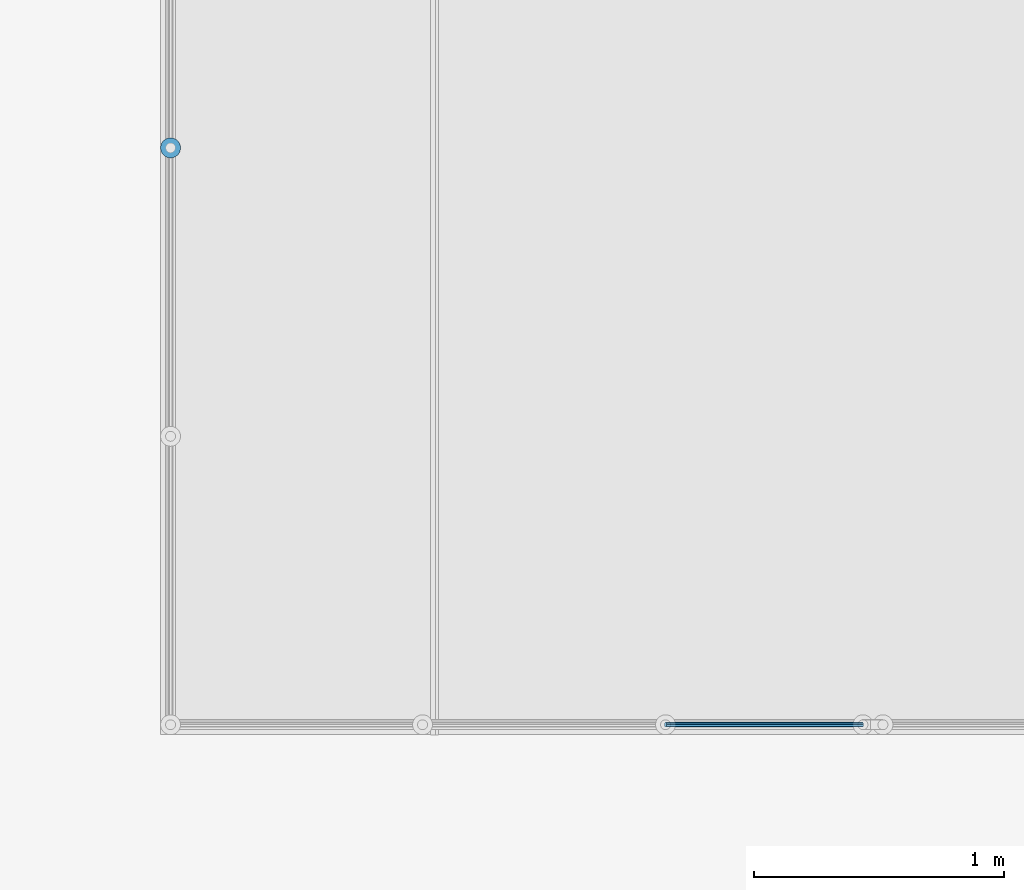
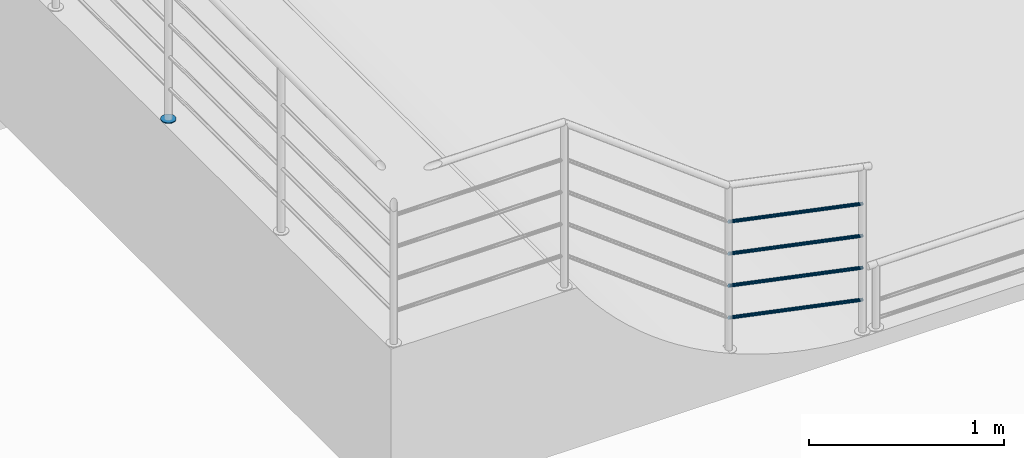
# One storey, part 93 of 237: 6 building element parts, 1 element without a shape of its own.
"""IFC2X3 building model written with IfcOpenShell, lengths in millimetres."""

from ifc_helpers import new_model, entity, si_unit, converted_unit, derived_unit, money_unit, direction, frame, origin_with_axes, place, context, subcontext, project, spatial, faceted_brep, material, type_object, element, aggregate, save


model = new_model("IFC2X3")

# Units and contexts
model_context = context("Model", 3, precision=0.01, world=origin_with_axes(), true_north=direction((0.0, 1.0)))
body_context = subcontext(model_context, "Body", "Model", "MODEL_VIEW")
ifc_project = project(units=[si_unit("LENGTHUNIT", "METRE", prefix="MILLI"), si_unit("AREAUNIT", "SQUARE_METRE"), si_unit("VOLUMEUNIT", "CUBIC_METRE"), converted_unit("PLANEANGLEUNIT", "DEGREE", entity("IfcPlaneAngleMeasure", 0.0174532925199), si_unit("PLANEANGLEUNIT", "RADIAN"), dimensions=[0, 0, 0, 0, 0, 0, 0]), money_unit("USD"), converted_unit("TIMEUNIT", "Year", entity("IfcTimeMeasure", 31556926.0), si_unit("TIMEUNIT", "SECOND"), dimensions=[0, 0, 1, 0, 0, 0, 0]), si_unit("MASSUNIT", "GRAM", prefix="KILO"), si_unit("THERMODYNAMICTEMPERATUREUNIT", "DEGREE_CELSIUS"), si_unit("LUMINOUSINTENSITYUNIT", "LUMEN"), si_unit("ENERGYUNIT", "JOULE", prefix="MEGA"), derived_unit("THERMALCONDUCTANCEUNIT", [(si_unit("POWERUNIT", "WATT"), 1), (si_unit("LENGTHUNIT", "METRE"), -1), (si_unit("THERMODYNAMICTEMPERATUREUNIT", "KELVIN"), -1)]), derived_unit("SPECIFICHEATCAPACITYUNIT", [(si_unit("ENERGYUNIT", "JOULE"), 1), (si_unit("MASSUNIT", "GRAM", prefix="KILO"), -1), (si_unit("THERMODYNAMICTEMPERATUREUNIT", "KELVIN"), -1)]), derived_unit("MASSDENSITYUNIT", [(si_unit("MASSUNIT", "GRAM", prefix="KILO"), 1), (si_unit("VOLUMEUNIT", "CUBIC_METRE"), -1)])], contexts=[model_context])

# Site, building, storey
site_placement = place(None, origin_with_axes())
site = spatial("IfcSite", under=ifc_project, at=site_placement, Name="Local", CompositionType="ELEMENT")
building_placement = place(site_placement, origin_with_axes())
building = spatial("IfcBuilding", under=site, at=building_placement, Name="Construção", CompositionType="ELEMENT")
storey_placement = place(building_placement, origin_with_axes())
storey = spatial("IfcBuildingStorey", under=building, at=storey_placement, Name="Pavimento Térreo", CompositionType="ELEMENT", Elevation=0.0)

# Railing, building element parts
railing_type = type_object("IfcRailingType", Name="Tipo de Guarda-Corpo", PredefinedType="NOTDEFINED")
railing_placement = place(storey_placement, frame((53912.4440926, 33356.4497128, -1263.04952679), z_axis=(0.0, 0.0, 1.0), x_axis=(1.0, 0.0, 0.0)))
railing = element("IfcRailing", 1, at=railing_placement, inside=storey, type_object=railing_type, Name="Guarda-Corpo - 001", PredefinedType="NOTDEFINED")
ifc_material_1 = material(Name="Alumínio")
building_element_part_1_placement = place(railing_placement, origin_with_axes())
building_element_part_1 = element("IfcBuildingElementPart", 2, at=building_element_part_1_placement, material=ifc_material_1, Name="Alumínio", context=body_context, shape_type="Brep", body=[
    faceted_brep([(-2810.0, -3003.52512082, 905.941330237), (-2803.05407289, -3002.91743094, 905.941330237), (-2803.05407289, -3002.91743094, 910.941330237), (-2810.0, -3003.52512082, 910.941330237), (-2816.94592711, -3002.91743094, 905.941330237), (-2823.68080573, -3001.11282565, 905.941330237), (-2830.0, -2998.16613697, 905.941330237), (-2835.71150439, -2994.16689854, 905.941330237), (-2840.64177772, -2989.2366252, 905.941330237), (-2844.64101615, -2983.52512082, 905.941330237), (-2847.58770483, -2977.20592655, 905.941330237), (-2849.39231012, -2970.47104792, 905.941330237), (-2850.0, -2963.52512082, 905.941330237), (-2849.39231012, -2956.57919371, 905.941330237), (-2847.58770483, -2949.84431508, 905.941330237), (-2844.64101615, -2943.52512082, 905.941330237), (-2840.64177772, -2937.81361643, 905.941330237), (-2835.71150439, -2932.88334309, 905.941330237), (-2830.0, -2928.88410467, 905.941330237), (-2823.68080573, -2925.93741599, 905.941330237), (-2816.94592711, -2924.1328107, 905.941330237), (-2810.0, -2923.52512082, 905.941330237), (-2803.05407289, -2924.1328107, 905.941330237), (-2796.31919427, -2925.93741599, 905.941330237), (-2790.0, -2928.88410467, 905.941330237), (-2784.28849561, -2932.88334309, 905.941330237), (-2779.35822228, -2937.81361643, 905.941330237), (-2775.35898385, -2943.52512082, 905.941330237), (-2772.41229517, -2949.84431508, 905.941330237), (-2770.60768988, -2956.57919371, 905.941330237), (-2770.0, -2963.52512082, 905.941330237), (-2770.60768988, -2970.47104792, 905.941330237), (-2772.41229517, -2977.20592655, 905.941330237), (-2775.35898385, -2983.52512082, 905.941330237), (-2779.35822228, -2989.2366252, 905.941330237), (-2784.28849561, -2994.16689854, 905.941330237), (-2790.0, -2998.16613697, 905.941330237), (-2796.31919427, -3001.11282565, 905.941330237), (-2796.31919427, -3001.11282565, 910.941330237), (-2790.0, -2998.16613697, 910.941330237), (-2784.28849561, -2994.16689854, 910.941330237), (-2779.35822228, -2989.2366252, 910.941330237), (-2775.35898385, -2983.52512082, 910.941330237), (-2772.41229517, -2977.20592655, 910.941330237), (-2770.60768988, -2970.47104792, 910.941330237), (-2770.0, -2963.52512082, 910.941330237), (-2770.60768988, -2956.57919371, 910.941330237), (-2772.41229517, -2949.84431508, 910.941330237), (-2775.35898385, -2943.52512082, 910.941330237), (-2779.35822228, -2937.81361643, 910.941330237), (-2784.28849561, -2932.88334309, 910.941330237), (-2790.0, -2928.88410467, 910.941330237), (-2796.31919427, -2925.93741599, 910.941330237), (-2803.05407289, -2924.1328107, 910.941330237), (-2810.0, -2923.52512082, 910.941330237), (-2816.94592711, -2924.1328107, 910.941330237), (-2823.68080573, -2925.93741599, 910.941330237), (-2830.0, -2928.88410467, 910.941330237), (-2835.71150439, -2932.88334309, 910.941330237), (-2840.64177772, -2937.81361643, 910.941330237), (-2844.64101615, -2943.52512082, 910.941330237), (-2847.58770483, -2949.84431508, 910.941330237), (-2849.39231012, -2956.57919371, 910.941330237), (-2850.0, -2963.52512082, 910.941330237), (-2849.39231012, -2970.47104792, 910.941330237), (-2847.58770483, -2977.20592655, 910.941330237), (-2844.64101615, -2983.52512082, 910.941330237), (-2840.64177772, -2989.2366252, 910.941330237), (-2835.71150439, -2994.16689854, 910.941330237), (-2830.0, -2998.16613697, 910.941330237), (-2823.68080573, -3001.11282565, 910.941330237), (-2816.94592711, -3002.91743094, 910.941330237)], [[[0, 1, 2, 3]], [[0, 4, 5, 6, 7, 8, 9, 10, 11, 12, 13, 14, 15, 16, 17, 18, 19, 20, 21, 22, 23, 24, 25, 26, 27, 28, 29, 30, 31, 32, 33, 34, 35, 36, 37, 1]], [[1, 37, 38, 2]], [[3, 2, 38, 39, 40, 41, 42, 43, 44, 45, 46, 47, 48, 49, 50, 51, 52, 53, 54, 55, 56, 57, 58, 59, 60, 61, 62, 63, 64, 65, 66, 67, 68, 69, 70, 71]], [[4, 0, 3, 71]], [[5, 4, 71, 70]], [[6, 5, 70, 69]], [[7, 6, 69, 68]], [[8, 7, 68, 67]], [[9, 8, 67, 66]], [[10, 9, 66, 65]], [[11, 10, 65, 64]], [[12, 11, 64, 63]], [[13, 12, 63, 62]], [[14, 13, 62, 61]], [[15, 14, 61, 60]], [[16, 15, 60, 59]], [[17, 16, 59, 58]], [[18, 17, 58, 57]], [[19, 18, 57, 56]], [[20, 19, 56, 55]], [[21, 20, 55, 54]], [[22, 21, 54, 53]], [[23, 22, 53, 52]], [[24, 23, 52, 51]], [[25, 24, 51, 50]], [[26, 25, 50, 49]], [[27, 26, 49, 48]], [[28, 27, 48, 47]], [[29, 28, 47, 46]], [[30, 29, 46, 45]], [[31, 30, 45, 44]], [[32, 31, 44, 43]], [[33, 32, 43, 42]], [[34, 33, 42, 41]], [[35, 34, 41, 40]], [[36, 35, 40, 39]], [[37, 36, 39, 38]]]),
])
ifc_material_2 = material(Name="Aço - Inoxidável")
building_element_part_2_placement = place(railing_placement, origin_with_axes())
building_element_part_2 = element("IfcBuildingElementPart", 3, at=building_element_part_2_placement, material=ifc_material_2, Name="Aço - Inoxidável", context=body_context, shape_type="Brep", body=[
    faceted_brep([(-829.671437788, -5261.51345888, 372.183005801), (-828.936630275, -5261.66538135, 373.803992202), (-39.6471437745, -5261.66538135, 210.001515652), (-40.0, -5261.51345888, 208.301262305), (-830.406245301, -5261.66538135, 370.562019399), (-831.118726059, -5262.11653267, 368.990285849), (-831.787231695, -5262.85320484, 367.515561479), (-832.391450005, -5263.85301445, 366.182655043), (-832.913022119, -5265.08558278, 365.032066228), (-833.336100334, -5266.51345888, 364.098755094), (-833.647829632, -5268.09325744, 363.411079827), (-833.838738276, -5269.7769771, 362.989935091), (-833.903025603, -5271.51345888, 362.848117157), (-833.838738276, -5273.24994065, 362.989935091), (-833.647829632, -5274.93366031, 363.411079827), (-833.336100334, -5276.51345888, 364.098755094), (-832.913022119, -5277.94133497, 365.032066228), (-832.391450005, -5279.17390331, 366.182655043), (-831.787231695, -5280.17371292, 367.515561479), (-831.118726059, -5280.91038509, 368.990285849), (-830.406245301, -5281.36153641, 370.562019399), (-829.671437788, -5281.51345888, 372.183005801), (-828.936630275, -5281.36153641, 373.803992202), (-828.224149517, -5280.91038509, 375.375725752), (-827.55564388, -5280.17371292, 376.850450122), (-826.951425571, -5279.17390331, 378.183356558), (-826.429853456, -5277.94133497, 379.333945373), (-826.006775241, -5276.51345888, 380.267256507), (-825.695045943, -5274.93366031, 380.954931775), (-825.5041373, -5273.24994065, 381.37607651), (-825.439849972, -5271.51345888, 381.517894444), (-825.5041373, -5269.7769771, 381.37607651), (-825.695045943, -5268.09325744, 380.954931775), (-826.006775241, -5266.51345888, 380.267256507), (-826.429853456, -5265.08558278, 379.333945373), (-826.951425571, -5263.85301445, 378.183356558), (-827.55564388, -5262.85320484, 376.850450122), (-828.224149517, -5262.11653267, 375.375725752), (-39.3050089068, -5262.11653267, 211.650107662), (-38.9839909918, -5262.85320484, 213.1969467), (-38.6938439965, -5263.85301445, 214.595032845), (-38.4433838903, -5265.08558278, 215.801885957), (-38.2402207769, -5266.51345888, 216.780836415), (-38.0905276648, -5268.09325744, 217.502139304), (-37.9988529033, -5269.7769771, 217.943878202), (-37.9679819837, -5271.51345888, 218.092631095), (-37.9988529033, -5273.24994065, 217.943878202), (-38.0905276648, -5274.93366031, 217.502139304), (-38.2402207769, -5276.51345888, 216.780836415), (-38.4433838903, -5277.94133497, 215.801885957), (-38.6938439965, -5279.17390331, 214.595032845), (-38.9839909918, -5280.17371292, 213.1969467), (-39.3050089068, -5280.91038509, 211.650107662), (-39.6471437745, -5281.36153641, 210.001515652), (-40.0, -5281.51345888, 208.301262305), (-40.3528562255, -5281.36153641, 206.601008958), (-40.6949910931, -5280.91038509, 204.952416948), (-41.0160090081, -5280.17371292, 203.40557791), (-41.3061560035, -5279.17390331, 202.007491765), (-41.5566161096, -5277.94133497, 200.800638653), (-41.759779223, -5276.51345888, 199.821688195), (-41.9094723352, -5274.93366031, 199.100385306), (-42.0011470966, -5273.24994065, 198.658646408), (-42.0320180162, -5271.51345888, 198.509893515), (-42.0011470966, -5269.7769771, 198.658646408), (-41.9094723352, -5268.09325744, 199.100385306), (-41.759779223, -5266.51345888, 199.821688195), (-41.5566161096, -5265.08558278, 200.800638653), (-41.3061560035, -5263.85301445, 202.007491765), (-41.0160090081, -5262.85320484, 203.40557791), (-40.6949910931, -5262.11653267, 204.952416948), (-40.3528562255, -5261.66538135, 206.601008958)], [[[0, 1, 2, 3]], [[0, 4, 5, 6, 7, 8, 9, 10, 11, 12, 13, 14, 15, 16, 17, 18, 19, 20, 21, 22, 23, 24, 25, 26, 27, 28, 29, 30, 31, 32, 33, 34, 35, 36, 37, 1]], [[1, 37, 38, 2]], [[3, 2, 38, 39, 40, 41, 42, 43, 44, 45, 46, 47, 48, 49, 50, 51, 52, 53, 54, 55, 56, 57, 58, 59, 60, 61, 62, 63, 64, 65, 66, 67, 68, 69, 70, 71]], [[4, 0, 3, 71]], [[5, 4, 71, 70]], [[6, 5, 70, 69]], [[7, 6, 69, 68]], [[8, 7, 68, 67]], [[9, 8, 67, 66]], [[10, 9, 66, 65]], [[11, 10, 65, 64]], [[12, 11, 64, 63]], [[13, 12, 63, 62]], [[14, 13, 62, 61]], [[15, 14, 61, 60]], [[16, 15, 60, 59]], [[17, 16, 59, 58]], [[18, 17, 58, 57]], [[19, 18, 57, 56]], [[20, 19, 56, 55]], [[21, 20, 55, 54]], [[22, 21, 54, 53]], [[23, 22, 53, 52]], [[24, 23, 52, 51]], [[25, 24, 51, 50]], [[26, 25, 50, 49]], [[27, 26, 49, 48]], [[28, 27, 48, 47]], [[29, 28, 47, 46]], [[30, 29, 46, 45]], [[31, 30, 45, 44]], [[32, 31, 44, 43]], [[33, 32, 43, 42]], [[34, 33, 42, 41]], [[35, 34, 41, 40]], [[36, 35, 40, 39]], [[37, 36, 39, 38]]]),
])
building_element_part_3_placement = place(railing_placement, origin_with_axes())
building_element_part_3 = element("IfcBuildingElementPart", 4, at=building_element_part_3_placement, material=ifc_material_2, Name="Aço - Inoxidável", context=body_context, shape_type="Brep", body=[
    faceted_brep([(-829.671437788, -5261.51345888, 572.183005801), (-828.936630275, -5261.66538135, 573.803992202), (-39.6471437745, -5261.66538135, 410.001515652), (-40.0, -5261.51345888, 408.301262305), (-830.406245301, -5261.66538135, 570.562019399), (-831.118726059, -5262.11653267, 568.990285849), (-831.787231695, -5262.85320484, 567.515561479), (-832.391450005, -5263.85301445, 566.182655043), (-832.913022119, -5265.08558278, 565.032066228), (-833.336100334, -5266.51345888, 564.098755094), (-833.647829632, -5268.09325744, 563.411079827), (-833.838738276, -5269.7769771, 562.989935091), (-833.903025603, -5271.51345888, 562.848117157), (-833.838738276, -5273.24994065, 562.989935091), (-833.647829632, -5274.93366031, 563.411079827), (-833.336100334, -5276.51345888, 564.098755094), (-832.913022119, -5277.94133497, 565.032066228), (-832.391450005, -5279.17390331, 566.182655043), (-831.787231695, -5280.17371292, 567.515561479), (-831.118726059, -5280.91038509, 568.990285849), (-830.406245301, -5281.36153641, 570.562019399), (-829.671437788, -5281.51345888, 572.183005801), (-828.936630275, -5281.36153641, 573.803992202), (-828.224149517, -5280.91038509, 575.375725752), (-827.55564388, -5280.17371292, 576.850450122), (-826.951425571, -5279.17390331, 578.183356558), (-826.429853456, -5277.94133497, 579.333945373), (-826.006775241, -5276.51345888, 580.267256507), (-825.695045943, -5274.93366031, 580.954931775), (-825.5041373, -5273.24994065, 581.37607651), (-825.439849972, -5271.51345888, 581.517894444), (-825.5041373, -5269.7769771, 581.37607651), (-825.695045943, -5268.09325744, 580.954931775), (-826.006775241, -5266.51345888, 580.267256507), (-826.429853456, -5265.08558278, 579.333945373), (-826.951425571, -5263.85301445, 578.183356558), (-827.55564388, -5262.85320484, 576.850450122), (-828.224149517, -5262.11653267, 575.375725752), (-39.3050089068, -5262.11653267, 411.650107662), (-38.9839909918, -5262.85320484, 413.1969467), (-38.6938439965, -5263.85301445, 414.595032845), (-38.4433838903, -5265.08558278, 415.801885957), (-38.2402207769, -5266.51345888, 416.780836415), (-38.0905276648, -5268.09325744, 417.502139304), (-37.9988529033, -5269.7769771, 417.943878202), (-37.9679819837, -5271.51345888, 418.092631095), (-37.9988529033, -5273.24994065, 417.943878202), (-38.0905276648, -5274.93366031, 417.502139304), (-38.2402207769, -5276.51345888, 416.780836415), (-38.4433838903, -5277.94133497, 415.801885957), (-38.6938439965, -5279.17390331, 414.595032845), (-38.9839909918, -5280.17371292, 413.1969467), (-39.3050089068, -5280.91038509, 411.650107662), (-39.6471437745, -5281.36153641, 410.001515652), (-40.0, -5281.51345888, 408.301262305), (-40.3528562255, -5281.36153641, 406.601008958), (-40.6949910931, -5280.91038509, 404.952416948), (-41.0160090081, -5280.17371292, 403.40557791), (-41.3061560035, -5279.17390331, 402.007491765), (-41.5566161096, -5277.94133497, 400.800638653), (-41.759779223, -5276.51345888, 399.821688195), (-41.9094723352, -5274.93366031, 399.100385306), (-42.0011470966, -5273.24994065, 398.658646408), (-42.0320180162, -5271.51345888, 398.509893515), (-42.0011470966, -5269.7769771, 398.658646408), (-41.9094723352, -5268.09325744, 399.100385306), (-41.759779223, -5266.51345888, 399.821688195), (-41.5566161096, -5265.08558278, 400.800638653), (-41.3061560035, -5263.85301445, 402.007491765), (-41.0160090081, -5262.85320484, 403.40557791), (-40.6949910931, -5262.11653267, 404.952416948), (-40.3528562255, -5261.66538135, 406.601008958)], [[[0, 1, 2, 3]], [[0, 4, 5, 6, 7, 8, 9, 10, 11, 12, 13, 14, 15, 16, 17, 18, 19, 20, 21, 22, 23, 24, 25, 26, 27, 28, 29, 30, 31, 32, 33, 34, 35, 36, 37, 1]], [[1, 37, 38, 2]], [[3, 2, 38, 39, 40, 41, 42, 43, 44, 45, 46, 47, 48, 49, 50, 51, 52, 53, 54, 55, 56, 57, 58, 59, 60, 61, 62, 63, 64, 65, 66, 67, 68, 69, 70, 71]], [[4, 0, 3, 71]], [[5, 4, 71, 70]], [[6, 5, 70, 69]], [[7, 6, 69, 68]], [[8, 7, 68, 67]], [[9, 8, 67, 66]], [[10, 9, 66, 65]], [[11, 10, 65, 64]], [[12, 11, 64, 63]], [[13, 12, 63, 62]], [[14, 13, 62, 61]], [[15, 14, 61, 60]], [[16, 15, 60, 59]], [[17, 16, 59, 58]], [[18, 17, 58, 57]], [[19, 18, 57, 56]], [[20, 19, 56, 55]], [[21, 20, 55, 54]], [[22, 21, 54, 53]], [[23, 22, 53, 52]], [[24, 23, 52, 51]], [[25, 24, 51, 50]], [[26, 25, 50, 49]], [[27, 26, 49, 48]], [[28, 27, 48, 47]], [[29, 28, 47, 46]], [[30, 29, 46, 45]], [[31, 30, 45, 44]], [[32, 31, 44, 43]], [[33, 32, 43, 42]], [[34, 33, 42, 41]], [[35, 34, 41, 40]], [[36, 35, 40, 39]], [[37, 36, 39, 38]]]),
])
building_element_part_4_placement = place(railing_placement, origin_with_axes())
building_element_part_4 = element("IfcBuildingElementPart", 5, at=building_element_part_4_placement, material=ifc_material_2, Name="Aço - Inoxidável", context=body_context, shape_type="Brep", body=[
    faceted_brep([(-829.671437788, -5261.51345888, 572.183005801), (-828.936630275, -5261.66538135, 573.803992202), (-39.6471437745, -5261.66538135, 410.001515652), (-40.0, -5261.51345888, 408.301262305), (-830.406245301, -5261.66538135, 570.562019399), (-831.118726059, -5262.11653267, 568.990285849), (-831.787231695, -5262.85320484, 567.515561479), (-832.391450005, -5263.85301445, 566.182655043), (-832.913022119, -5265.08558278, 565.032066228), (-833.336100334, -5266.51345888, 564.098755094), (-833.647829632, -5268.09325744, 563.411079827), (-833.838738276, -5269.7769771, 562.989935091), (-833.903025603, -5271.51345888, 562.848117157), (-833.838738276, -5273.24994065, 562.989935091), (-833.647829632, -5274.93366031, 563.411079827), (-833.336100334, -5276.51345888, 564.098755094), (-832.913022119, -5277.94133497, 565.032066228), (-832.391450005, -5279.17390331, 566.182655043), (-831.787231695, -5280.17371292, 567.515561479), (-831.118726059, -5280.91038509, 568.990285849), (-830.406245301, -5281.36153641, 570.562019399), (-829.671437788, -5281.51345888, 572.183005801), (-828.936630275, -5281.36153641, 573.803992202), (-828.224149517, -5280.91038509, 575.375725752), (-827.55564388, -5280.17371292, 576.850450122), (-826.951425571, -5279.17390331, 578.183356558), (-826.429853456, -5277.94133497, 579.333945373), (-826.006775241, -5276.51345888, 580.267256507), (-825.695045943, -5274.93366031, 580.954931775), (-825.5041373, -5273.24994065, 581.37607651), (-825.439849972, -5271.51345888, 581.517894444), (-825.5041373, -5269.7769771, 581.37607651), (-825.695045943, -5268.09325744, 580.954931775), (-826.006775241, -5266.51345888, 580.267256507), (-826.429853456, -5265.08558278, 579.333945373), (-826.951425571, -5263.85301445, 578.183356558), (-827.55564388, -5262.85320484, 576.850450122), (-828.224149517, -5262.11653267, 575.375725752), (-39.3050089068, -5262.11653267, 411.650107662), (-38.9839909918, -5262.85320484, 413.1969467), (-38.6938439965, -5263.85301445, 414.595032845), (-38.4433838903, -5265.08558278, 415.801885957), (-38.2402207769, -5266.51345888, 416.780836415), (-38.0905276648, -5268.09325744, 417.502139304), (-37.9988529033, -5269.7769771, 417.943878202), (-37.9679819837, -5271.51345888, 418.092631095), (-37.9988529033, -5273.24994065, 417.943878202), (-38.0905276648, -5274.93366031, 417.502139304), (-38.2402207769, -5276.51345888, 416.780836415), (-38.4433838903, -5277.94133497, 415.801885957), (-38.6938439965, -5279.17390331, 414.595032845), (-38.9839909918, -5280.17371292, 413.1969467), (-39.3050089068, -5280.91038509, 411.650107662), (-39.6471437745, -5281.36153641, 410.001515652), (-40.0, -5281.51345888, 408.301262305), (-40.3528562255, -5281.36153641, 406.601008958), (-40.6949910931, -5280.91038509, 404.952416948), (-41.0160090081, -5280.17371292, 403.40557791), (-41.3061560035, -5279.17390331, 402.007491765), (-41.5566161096, -5277.94133497, 400.800638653), (-41.759779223, -5276.51345888, 399.821688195), (-41.9094723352, -5274.93366031, 399.100385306), (-42.0011470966, -5273.24994065, 398.658646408), (-42.0320180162, -5271.51345888, 398.509893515), (-42.0011470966, -5269.7769771, 398.658646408), (-41.9094723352, -5268.09325744, 399.100385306), (-41.759779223, -5266.51345888, 399.821688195), (-41.5566161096, -5265.08558278, 400.800638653), (-41.3061560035, -5263.85301445, 402.007491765), (-41.0160090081, -5262.85320484, 403.40557791), (-40.6949910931, -5262.11653267, 404.952416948), (-40.3528562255, -5261.66538135, 406.601008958)], [[[0, 1, 2, 3]], [[0, 4, 5, 6, 7, 8, 9, 10, 11, 12, 13, 14, 15, 16, 17, 18, 19, 20, 21, 22, 23, 24, 25, 26, 27, 28, 29, 30, 31, 32, 33, 34, 35, 36, 37, 1]], [[1, 37, 38, 2]], [[3, 2, 38, 39, 40, 41, 42, 43, 44, 45, 46, 47, 48, 49, 50, 51, 52, 53, 54, 55, 56, 57, 58, 59, 60, 61, 62, 63, 64, 65, 66, 67, 68, 69, 70, 71]], [[4, 0, 3, 71]], [[5, 4, 71, 70]], [[6, 5, 70, 69]], [[7, 6, 69, 68]], [[8, 7, 68, 67]], [[9, 8, 67, 66]], [[10, 9, 66, 65]], [[11, 10, 65, 64]], [[12, 11, 64, 63]], [[13, 12, 63, 62]], [[14, 13, 62, 61]], [[15, 14, 61, 60]], [[16, 15, 60, 59]], [[17, 16, 59, 58]], [[18, 17, 58, 57]], [[19, 18, 57, 56]], [[20, 19, 56, 55]], [[21, 20, 55, 54]], [[22, 21, 54, 53]], [[23, 22, 53, 52]], [[24, 23, 52, 51]], [[25, 24, 51, 50]], [[26, 25, 50, 49]], [[27, 26, 49, 48]], [[28, 27, 48, 47]], [[29, 28, 47, 46]], [[30, 29, 46, 45]], [[31, 30, 45, 44]], [[32, 31, 44, 43]], [[33, 32, 43, 42]], [[34, 33, 42, 41]], [[35, 34, 41, 40]], [[36, 35, 40, 39]], [[37, 36, 39, 38]]]),
])
building_element_part_5_placement = place(railing_placement, origin_with_axes())
building_element_part_5 = element("IfcBuildingElementPart", 6, at=building_element_part_5_placement, material=ifc_material_2, Name="Aço - Inoxidável", context=body_context, shape_type="Brep", body=[
    faceted_brep([(-829.671437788, -5261.51345888, 772.183005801), (-828.936630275, -5261.66538135, 773.803992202), (-39.6471437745, -5261.66538135, 610.001515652), (-40.0, -5261.51345888, 608.301262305), (-830.406245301, -5261.66538135, 770.562019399), (-831.118726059, -5262.11653267, 768.990285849), (-831.787231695, -5262.85320484, 767.515561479), (-832.391450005, -5263.85301445, 766.182655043), (-832.913022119, -5265.08558278, 765.032066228), (-833.336100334, -5266.51345888, 764.098755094), (-833.647829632, -5268.09325744, 763.411079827), (-833.838738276, -5269.7769771, 762.989935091), (-833.903025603, -5271.51345888, 762.848117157), (-833.838738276, -5273.24994065, 762.989935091), (-833.647829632, -5274.93366031, 763.411079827), (-833.336100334, -5276.51345888, 764.098755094), (-832.913022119, -5277.94133497, 765.032066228), (-832.391450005, -5279.17390331, 766.182655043), (-831.787231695, -5280.17371292, 767.515561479), (-831.118726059, -5280.91038509, 768.990285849), (-830.406245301, -5281.36153641, 770.562019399), (-829.671437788, -5281.51345888, 772.183005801), (-828.936630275, -5281.36153641, 773.803992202), (-828.224149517, -5280.91038509, 775.375725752), (-827.55564388, -5280.17371292, 776.850450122), (-826.951425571, -5279.17390331, 778.183356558), (-826.429853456, -5277.94133497, 779.333945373), (-826.006775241, -5276.51345888, 780.267256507), (-825.695045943, -5274.93366031, 780.954931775), (-825.5041373, -5273.24994065, 781.37607651), (-825.439849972, -5271.51345888, 781.517894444), (-825.5041373, -5269.7769771, 781.37607651), (-825.695045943, -5268.09325744, 780.954931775), (-826.006775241, -5266.51345888, 780.267256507), (-826.429853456, -5265.08558278, 779.333945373), (-826.951425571, -5263.85301445, 778.183356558), (-827.55564388, -5262.85320484, 776.850450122), (-828.224149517, -5262.11653267, 775.375725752), (-39.3050089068, -5262.11653267, 611.650107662), (-38.9839909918, -5262.85320484, 613.1969467), (-38.6938439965, -5263.85301445, 614.595032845), (-38.4433838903, -5265.08558278, 615.801885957), (-38.2402207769, -5266.51345888, 616.780836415), (-38.0905276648, -5268.09325744, 617.502139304), (-37.9988529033, -5269.7769771, 617.943878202), (-37.9679819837, -5271.51345888, 618.092631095), (-37.9988529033, -5273.24994065, 617.943878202), (-38.0905276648, -5274.93366031, 617.502139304), (-38.2402207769, -5276.51345888, 616.780836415), (-38.4433838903, -5277.94133497, 615.801885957), (-38.6938439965, -5279.17390331, 614.595032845), (-38.9839909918, -5280.17371292, 613.1969467), (-39.3050089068, -5280.91038509, 611.650107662), (-39.6471437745, -5281.36153641, 610.001515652), (-40.0, -5281.51345888, 608.301262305), (-40.3528562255, -5281.36153641, 606.601008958), (-40.6949910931, -5280.91038509, 604.952416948), (-41.0160090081, -5280.17371292, 603.40557791), (-41.3061560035, -5279.17390331, 602.007491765), (-41.5566161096, -5277.94133497, 600.800638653), (-41.759779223, -5276.51345888, 599.821688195), (-41.9094723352, -5274.93366031, 599.100385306), (-42.0011470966, -5273.24994065, 598.658646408), (-42.0320180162, -5271.51345888, 598.509893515), (-42.0011470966, -5269.7769771, 598.658646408), (-41.9094723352, -5268.09325744, 599.100385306), (-41.759779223, -5266.51345888, 599.821688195), (-41.5566161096, -5265.08558278, 600.800638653), (-41.3061560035, -5263.85301445, 602.007491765), (-41.0160090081, -5262.85320484, 603.40557791), (-40.6949910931, -5262.11653267, 604.952416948), (-40.3528562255, -5261.66538135, 606.601008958)], [[[0, 1, 2, 3]], [[0, 4, 5, 6, 7, 8, 9, 10, 11, 12, 13, 14, 15, 16, 17, 18, 19, 20, 21, 22, 23, 24, 25, 26, 27, 28, 29, 30, 31, 32, 33, 34, 35, 36, 37, 1]], [[1, 37, 38, 2]], [[3, 2, 38, 39, 40, 41, 42, 43, 44, 45, 46, 47, 48, 49, 50, 51, 52, 53, 54, 55, 56, 57, 58, 59, 60, 61, 62, 63, 64, 65, 66, 67, 68, 69, 70, 71]], [[4, 0, 3, 71]], [[5, 4, 71, 70]], [[6, 5, 70, 69]], [[7, 6, 69, 68]], [[8, 7, 68, 67]], [[9, 8, 67, 66]], [[10, 9, 66, 65]], [[11, 10, 65, 64]], [[12, 11, 64, 63]], [[13, 12, 63, 62]], [[14, 13, 62, 61]], [[15, 14, 61, 60]], [[16, 15, 60, 59]], [[17, 16, 59, 58]], [[18, 17, 58, 57]], [[19, 18, 57, 56]], [[20, 19, 56, 55]], [[21, 20, 55, 54]], [[22, 21, 54, 53]], [[23, 22, 53, 52]], [[24, 23, 52, 51]], [[25, 24, 51, 50]], [[26, 25, 50, 49]], [[27, 26, 49, 48]], [[28, 27, 48, 47]], [[29, 28, 47, 46]], [[30, 29, 46, 45]], [[31, 30, 45, 44]], [[32, 31, 44, 43]], [[33, 32, 43, 42]], [[34, 33, 42, 41]], [[35, 34, 41, 40]], [[36, 35, 40, 39]], [[37, 36, 39, 38]]]),
])
building_element_part_6_placement = place(railing_placement, origin_with_axes())
building_element_part_6 = element("IfcBuildingElementPart", 7, at=building_element_part_6_placement, material=ifc_material_2, Name="Aço - Inoxidável", context=body_context, shape_type="Brep", body=[
    faceted_brep([(-829.671437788, -5261.51345888, 972.183005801), (-828.936630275, -5261.66538135, 973.803992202), (-39.6471437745, -5261.66538135, 810.001515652), (-40.0, -5261.51345888, 808.301262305), (-830.406245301, -5261.66538135, 970.562019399), (-831.118726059, -5262.11653267, 968.990285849), (-831.787231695, -5262.85320484, 967.515561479), (-832.391450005, -5263.85301445, 966.182655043), (-832.913022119, -5265.08558278, 965.032066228), (-833.336100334, -5266.51345888, 964.098755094), (-833.647829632, -5268.09325744, 963.411079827), (-833.838738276, -5269.7769771, 962.989935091), (-833.903025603, -5271.51345888, 962.848117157), (-833.838738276, -5273.24994065, 962.989935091), (-833.647829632, -5274.93366031, 963.411079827), (-833.336100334, -5276.51345888, 964.098755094), (-832.913022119, -5277.94133497, 965.032066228), (-832.391450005, -5279.17390331, 966.182655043), (-831.787231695, -5280.17371292, 967.515561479), (-831.118726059, -5280.91038509, 968.990285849), (-830.406245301, -5281.36153641, 970.562019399), (-829.671437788, -5281.51345888, 972.183005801), (-828.936630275, -5281.36153641, 973.803992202), (-828.224149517, -5280.91038509, 975.375725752), (-827.55564388, -5280.17371292, 976.850450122), (-826.951425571, -5279.17390331, 978.183356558), (-826.429853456, -5277.94133497, 979.333945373), (-826.006775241, -5276.51345888, 980.267256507), (-825.695045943, -5274.93366031, 980.954931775), (-825.5041373, -5273.24994065, 981.37607651), (-825.439849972, -5271.51345888, 981.517894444), (-825.5041373, -5269.7769771, 981.37607651), (-825.695045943, -5268.09325744, 980.954931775), (-826.006775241, -5266.51345888, 980.267256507), (-826.429853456, -5265.08558278, 979.333945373), (-826.951425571, -5263.85301445, 978.183356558), (-827.55564388, -5262.85320484, 976.850450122), (-828.224149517, -5262.11653267, 975.375725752), (-39.3050089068, -5262.11653267, 811.650107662), (-38.9839909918, -5262.85320484, 813.1969467), (-38.6938439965, -5263.85301445, 814.595032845), (-38.4433838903, -5265.08558278, 815.801885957), (-38.2402207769, -5266.51345888, 816.780836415), (-38.0905276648, -5268.09325744, 817.502139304), (-37.9988529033, -5269.7769771, 817.943878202), (-37.9679819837, -5271.51345888, 818.092631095), (-37.9988529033, -5273.24994065, 817.943878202), (-38.0905276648, -5274.93366031, 817.502139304), (-38.2402207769, -5276.51345888, 816.780836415), (-38.4433838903, -5277.94133497, 815.801885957), (-38.6938439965, -5279.17390331, 814.595032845), (-38.9839909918, -5280.17371292, 813.1969467), (-39.3050089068, -5280.91038509, 811.650107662), (-39.6471437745, -5281.36153641, 810.001515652), (-40.0, -5281.51345888, 808.301262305), (-40.3528562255, -5281.36153641, 806.601008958), (-40.6949910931, -5280.91038509, 804.952416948), (-41.0160090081, -5280.17371292, 803.40557791), (-41.3061560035, -5279.17390331, 802.007491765), (-41.5566161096, -5277.94133497, 800.800638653), (-41.759779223, -5276.51345888, 799.821688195), (-41.9094723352, -5274.93366031, 799.100385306), (-42.0011470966, -5273.24994065, 798.658646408), (-42.0320180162, -5271.51345888, 798.509893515), (-42.0011470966, -5269.7769771, 798.658646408), (-41.9094723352, -5268.09325744, 799.100385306), (-41.759779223, -5266.51345888, 799.821688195), (-41.5566161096, -5265.08558278, 800.800638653), (-41.3061560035, -5263.85301445, 802.007491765), (-41.0160090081, -5262.85320484, 803.40557791), (-40.6949910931, -5262.11653267, 804.952416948), (-40.3528562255, -5261.66538135, 806.601008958)], [[[0, 1, 2, 3]], [[0, 4, 5, 6, 7, 8, 9, 10, 11, 12, 13, 14, 15, 16, 17, 18, 19, 20, 21, 22, 23, 24, 25, 26, 27, 28, 29, 30, 31, 32, 33, 34, 35, 36, 37, 1]], [[1, 37, 38, 2]], [[3, 2, 38, 39, 40, 41, 42, 43, 44, 45, 46, 47, 48, 49, 50, 51, 52, 53, 54, 55, 56, 57, 58, 59, 60, 61, 62, 63, 64, 65, 66, 67, 68, 69, 70, 71]], [[4, 0, 3, 71]], [[5, 4, 71, 70]], [[6, 5, 70, 69]], [[7, 6, 69, 68]], [[8, 7, 68, 67]], [[9, 8, 67, 66]], [[10, 9, 66, 65]], [[11, 10, 65, 64]], [[12, 11, 64, 63]], [[13, 12, 63, 62]], [[14, 13, 62, 61]], [[15, 14, 61, 60]], [[16, 15, 60, 59]], [[17, 16, 59, 58]], [[18, 17, 58, 57]], [[19, 18, 57, 56]], [[20, 19, 56, 55]], [[21, 20, 55, 54]], [[22, 21, 54, 53]], [[23, 22, 53, 52]], [[24, 23, 52, 51]], [[25, 24, 51, 50]], [[26, 25, 50, 49]], [[27, 26, 49, 48]], [[28, 27, 48, 47]], [[29, 28, 47, 46]], [[30, 29, 46, 45]], [[31, 30, 45, 44]], [[32, 31, 44, 43]], [[33, 32, 43, 42]], [[34, 33, 42, 41]], [[35, 34, 41, 40]], [[36, 35, 40, 39]], [[37, 36, 39, 38]]]),
])
aggregate(railing, [building_element_part_1, building_element_part_2, building_element_part_3, building_element_part_4, building_element_part_5, building_element_part_6])

save(model, "model.ifc")
